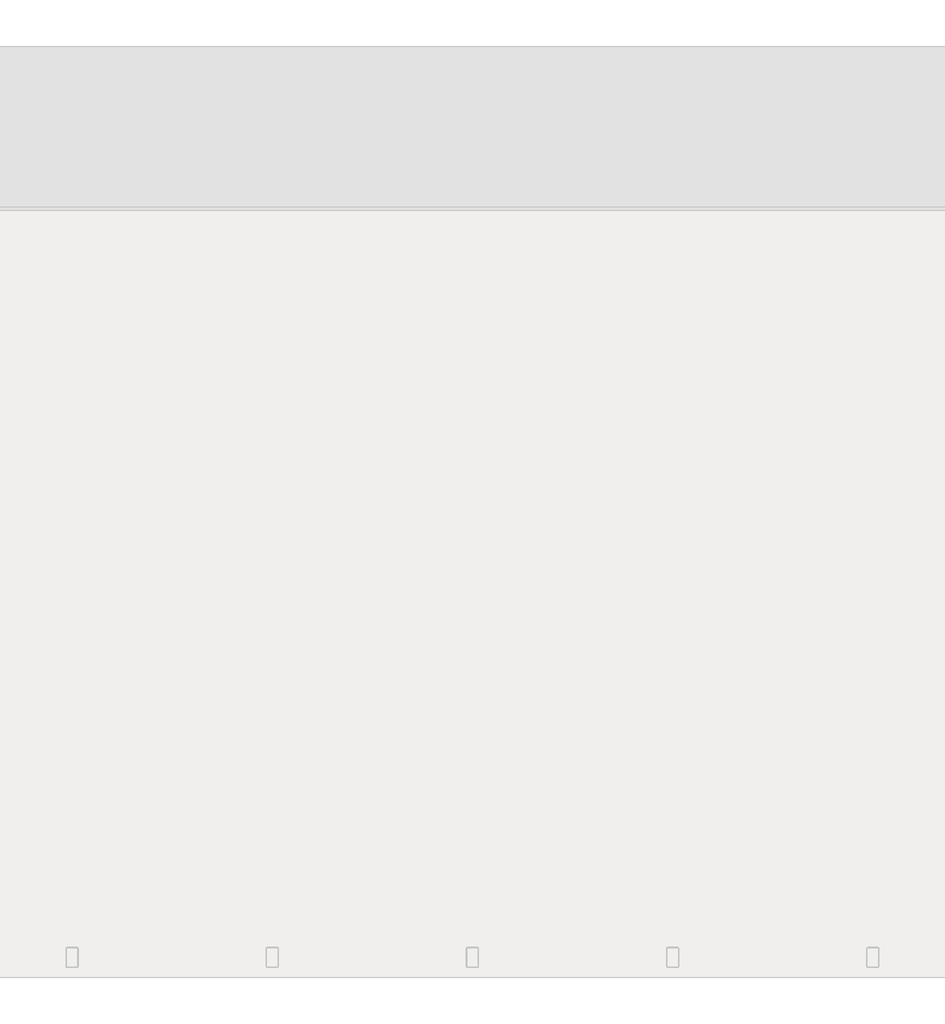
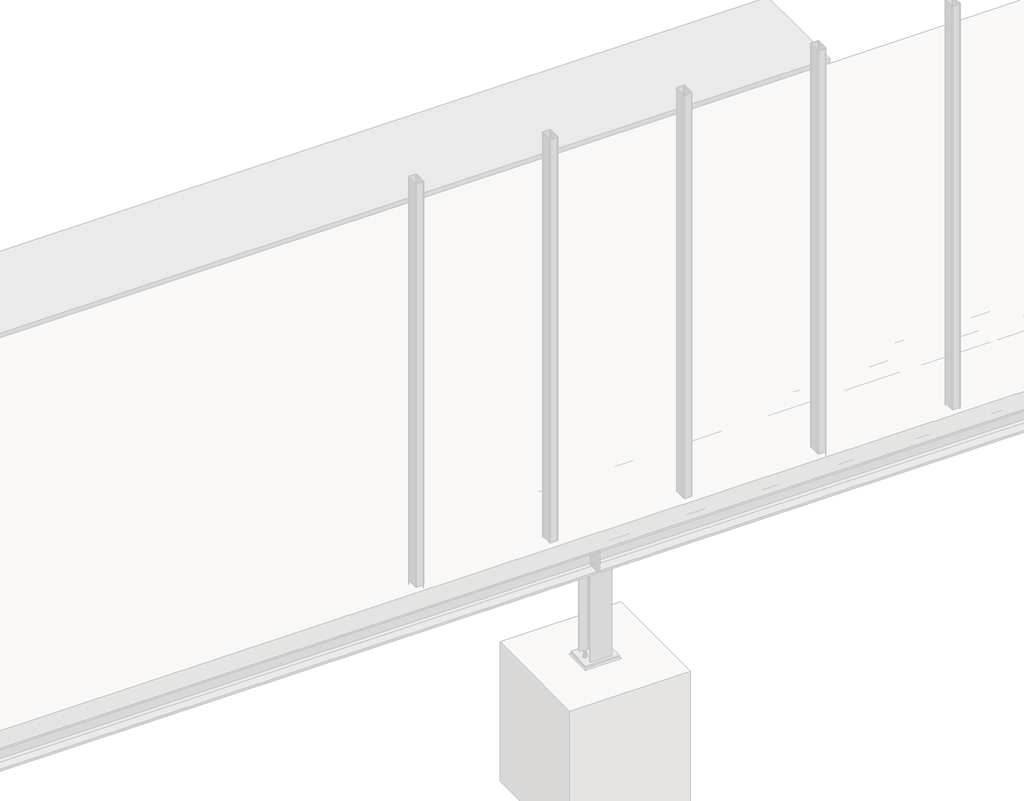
# One storey, part 28 of 36: 1 assembly.
"""IFC4 building model written with IfcOpenShell, lengths in millimetres."""

from ifc_helpers import new_model, si_unit, point, frame, frame_2d, origin, place, context, project, spatial, polyline, circle_curve, trimmed, segment, composite_curve, outline, extrude, element, save

model = new_model("IFC4")

# Units and contexts
model_context = context("Model", 3, world=origin())
ifc_project = project(units=[si_unit("LENGTHUNIT", "METRE", prefix="MILLI")], contexts=[model_context])

# Site, building, storey
site = spatial("IfcSite", under=ifc_project)
building = spatial("IfcBuilding", under=site)
storey = spatial("IfcBuildingStorey", under=building, Name="Základy", Elevation=-1200.0)

# Assembly
placement = place(None, origin())
element("IfcElementAssembly", 1, at=placement, inside=storey, context=model_context, shape_type="SweptSolid", body=[
    extrude(outline(composite_curve([segment(polyline([(-340.0, 9140.0), (-326.0, 9140.0), (-326.0, 9069.25)]), True, "CONTINUOUS"), segment(trimmed(circle_curve(frame_2d((-311.0, 9069.25)), 15.0), [point((-326.0, 9069.25))], [point((-311.0, 9054.25))], True, "CARTESIAN"), True, "CONTINUOUS"), segment(polyline([(-311.0, 9054.25), (-189.0, 9054.25)]), True, "CONTINUOUS"), segment(trimmed(circle_curve(frame_2d((-189.0, 9069.25)), 15.0), [point((-189.0, 9054.25))], [point((-174.0, 9069.25))], True, "CARTESIAN"), True, "CONTINUOUS"), segment(polyline([(-174.0, 9069.25), (-174.0, 9140.0), (-160.0, 9140.0), (-160.0, 8960.0), (-174.0, 8960.0), (-174.0, 9030.75)]), True, "CONTINUOUS"), segment(trimmed(circle_curve(frame_2d((-189.0, 9030.75)), 15.0), [point((-174.0, 9030.75))], [point((-189.0, 9045.75))], True, "CARTESIAN"), True, "CONTINUOUS"), segment(polyline([(-189.0, 9045.75), (-311.0, 9045.75)]), True, "CONTINUOUS"), segment(trimmed(circle_curve(frame_2d((-311.0, 9030.75)), 15.0), [point((-311.0, 9045.75))], [point((-326.0, 9030.75))], True, "CARTESIAN"), True, "CONTINUOUS"), segment(polyline([(-326.0, 9030.75), (-326.0, 8960.0), (-340.0, 8960.0), (-340.0, 9140.0)]), True, "CONTINUOUS")], self_intersect=False)), frame((0.0, 210.0, 0.0), z_axis=(0.0, 1.0, 0.0), x_axis=(0.0, 0.0, 1.0)), (0.0, 0.0, 1.0), 3557.0),
    extrude(outline(polyline([(8960.0, 3775.0), (9140.0, 3775.0), (9140.0, 3767.0), (8960.0, 3767.0), (8960.0, 3775.0)])), frame((0.0, 0.0, -316.0), z_axis=(0.0, 0.0, 1.0), x_axis=(1.0, 0.0, 0.0)), (0.0, 0.0, 1.0), 132.0),
    extrude(outline(polyline([(8950.0, 1200.0), (8950.0, 1320.0), (8960.0, 1320.0), (8960.0, 1200.0), (8950.0, 1200.0)])), frame((0.0, 0.0, -332.0), z_axis=(0.0, 0.0, 1.0), x_axis=(1.0, 0.0, 0.0)), (0.0, 0.0, 1.0), 164.0),
    extrude(outline(polyline([(9140.0, 1200.0), (9140.0, 1320.0), (9150.0, 1320.0), (9150.0, 1200.0), (9140.0, 1200.0)])), frame((0.0, 0.0, -332.0), z_axis=(0.0, 0.0, 1.0), x_axis=(1.0, 0.0, 0.0)), (0.0, 0.0, 1.0), 164.0),
    extrude(outline(composite_curve([segment(polyline([(-174.0, 9140.0), (-174.0, 9079.5)]), True, "CONTINUOUS"), segment(trimmed(circle_curve(frame_2d((-174.0, 9054.5)), 25.0), [point((-174.0, 9079.5))], [point((-199.0, 9054.5))], True, "CARTESIAN"), True, "CONTINUOUS"), segment(polyline([(-199.0, 9054.5), (-301.0, 9054.5)]), True, "CONTINUOUS"), segment(trimmed(circle_curve(frame_2d((-326.0, 9054.5)), 25.0), [point((-301.0, 9054.5))], [point((-326.0, 9079.5))], True, "CARTESIAN"), True, "CONTINUOUS"), segment(polyline([(-326.0, 9079.5), (-326.0, 9140.0), (-174.0, 9140.0)]), True, "CONTINUOUS")], self_intersect=False)), frame((0.0, 1256.0, 0.0), z_axis=(0.0, 1.0, 0.0), x_axis=(0.0, 0.0, 1.0)), (0.0, 0.0, 1.0), 8.0),
    extrude(outline(composite_curve([segment(polyline([(-174.0, 8960.0), (-326.0, 8960.0), (-326.0, 9020.5)]), True, "CONTINUOUS"), segment(trimmed(circle_curve(frame_2d((-326.0, 9045.5)), 25.0), [point((-326.0, 9020.5))], [point((-301.0, 9045.5))], True, "CARTESIAN"), True, "CONTINUOUS"), segment(polyline([(-301.0, 9045.5), (-199.0, 9045.5)]), True, "CONTINUOUS"), segment(trimmed(circle_curve(frame_2d((-174.0, 9045.5)), 25.0), [point((-199.0, 9045.5))], [point((-174.0, 9020.5))], True, "CARTESIAN"), True, "CONTINUOUS"), segment(polyline([(-174.0, 9020.5), (-174.0, 8960.0)]), True, "CONTINUOUS")], self_intersect=False)), frame((0.0, 1256.0, 0.0), z_axis=(0.0, 1.0, 0.0), x_axis=(0.0, 0.0, 1.0)), (0.0, 0.0, 1.0), 8.0),
    extrude(outline(polyline([(8960.0, 210.0), (9140.0, 210.0), (9140.0, 200.0), (8960.0, 200.0), (8960.0, 210.0)])), frame((0.0, 0.0, -332.0), z_axis=(0.0, 0.0, 1.0), x_axis=(1.0, 0.0, 0.0)), (0.0, 0.0, 1.0), 164.0),
    extrude(outline(composite_curve([segment(trimmed(circle_curve(frame_2d((1230.0, -225.0)), 6.5), [point((1230.0, -231.5))], [point((1230.0, -218.5))], False, "CARTESIAN"), True, "CONTINUOUS"), segment(trimmed(circle_curve(frame_2d((1230.0, -225.0)), 6.5), [point((1230.0, -218.5))], [point((1230.0, -231.5))], False, "CARTESIAN"), True, "CONTINUOUS")], self_intersect=False)), frame((8949.9, 0.0, 0.0), z_axis=(1.0, 0.0, 0.0), x_axis=(0.0, 1.0, 0.0)), (0.0, 0.0, 1.0), 10.0),
    extrude(outline(polyline([(1230.0, -235.3923048), (1221.0, -230.1961524), (1221.0, -219.8038476), (1230.0, -214.6076952), (1239.0, -219.8038476), (1239.0, -230.1961524), (1230.0, -235.3923048)])), frame((8962.5, 0.0, 0.0), z_axis=(1.0, 0.0, 0.0), x_axis=(0.0, 1.0, 0.0)), (0.0, 0.0, 1.0), 7.5),
    extrude(outline(composite_curve([segment(trimmed(circle_curve(frame_2d((1230.0, -225.0)), 6.0), [point((1230.0, -231.0))], [point((1230.0, -219.0))], False, "CARTESIAN"), True, "CONTINUOUS"), segment(trimmed(circle_curve(frame_2d((1230.0, -225.0)), 6.0), [point((1230.0, -219.0))], [point((1230.0, -231.0))], False, "CARTESIAN"), True, "CONTINUOUS")], self_intersect=False)), frame((8922.5, 0.0, 0.0), z_axis=(1.0, 0.0, 0.0), x_axis=(0.0, 1.0, 0.0)), (0.0, 0.0, 1.0), 40.0),
    extrude(outline(composite_curve([segment(trimmed(circle_curve(frame_2d((1230.0, -225.0)), 12.0), [point((1230.0, -237.0))], [point((1230.0, -213.0))], False, "CARTESIAN"), True, "CONTINUOUS"), segment(trimmed(circle_curve(frame_2d((1230.0, -225.0)), 12.0), [point((1230.0, -213.0))], [point((1230.0, -237.0))], False, "CARTESIAN"), True, "CONTINUOUS")], self_intersect=False)), frame((8960.0, 0.0, 0.0), z_axis=(1.0, 0.0, 0.0), x_axis=(0.0, 1.0, 0.0)), (0.0, 0.0, 1.0), 2.5),
    extrude(outline(composite_curve([segment(trimmed(circle_curve(frame_2d((1230.0, -225.0)), 12.0), [point((1230.0, -237.0))], [point((1230.0, -213.0))], False, "CARTESIAN"), True, "CONTINUOUS"), segment(trimmed(circle_curve(frame_2d((1230.0, -225.0)), 12.0), [point((1230.0, -213.0))], [point((1230.0, -237.0))], False, "CARTESIAN"), True, "CONTINUOUS")], self_intersect=False)), frame((8937.5, 0.0, 0.0), z_axis=(1.0, 0.0, 0.0), x_axis=(0.0, 1.0, 0.0)), (0.0, 0.0, 1.0), 2.5),
    extrude(outline(polyline([(1230.0, -235.9696551), (1220.5, -230.4848276), (1220.5, -219.5151724), (1230.0, -214.0303449), (1239.5, -219.5151724), (1239.5, -230.4848276), (1230.0, -235.9696551)])), frame((8927.5, 0.0, 0.0), z_axis=(1.0, 0.0, 0.0), x_axis=(0.0, 1.0, 0.0)), (0.0, 0.0, 1.0), 10.0),
    extrude(outline(composite_curve([segment(trimmed(circle_curve(frame_2d((1230.0, -225.0)), 6.5), [point((1230.0, -231.5))], [point((1230.0, -218.5))], False, "CARTESIAN"), True, "CONTINUOUS"), segment(trimmed(circle_curve(frame_2d((1230.0, -225.0)), 6.5), [point((1230.0, -218.5))], [point((1230.0, -231.5))], False, "CARTESIAN"), True, "CONTINUOUS")], self_intersect=False)), frame((8940.0, 0.0, 0.0), z_axis=(1.0, 0.0, 0.0), x_axis=(0.0, 1.0, 0.0)), (0.0, 0.0, 1.0), 10.1),
    extrude(outline(composite_curve([segment(trimmed(circle_curve(frame_2d((1230.0, -275.0)), 6.5), [point((1230.0, -281.5))], [point((1230.0, -268.5))], False, "CARTESIAN"), True, "CONTINUOUS"), segment(trimmed(circle_curve(frame_2d((1230.0, -275.0)), 6.5), [point((1230.0, -268.5))], [point((1230.0, -281.5))], False, "CARTESIAN"), True, "CONTINUOUS")], self_intersect=False)), frame((8949.9, 0.0, 0.0), z_axis=(1.0, 0.0, 0.0), x_axis=(0.0, 1.0, 0.0)), (0.0, 0.0, 1.0), 10.0),
    extrude(outline(polyline([(1230.0, -285.3923048), (1221.0, -280.1961524), (1221.0, -269.8038476), (1230.0, -264.6076952), (1239.0, -269.8038476), (1239.0, -280.1961524), (1230.0, -285.3923048)])), frame((8962.5, 0.0, 0.0), z_axis=(1.0, 0.0, 0.0), x_axis=(0.0, 1.0, 0.0)), (0.0, 0.0, 1.0), 7.5),
    extrude(outline(composite_curve([segment(trimmed(circle_curve(frame_2d((1230.0, -275.0)), 6.0), [point((1230.0, -281.0))], [point((1230.0, -269.0))], False, "CARTESIAN"), True, "CONTINUOUS"), segment(trimmed(circle_curve(frame_2d((1230.0, -275.0)), 6.0), [point((1230.0, -269.0))], [point((1230.0, -281.0))], False, "CARTESIAN"), True, "CONTINUOUS")], self_intersect=False)), frame((8922.5, 0.0, 0.0), z_axis=(1.0, 0.0, 0.0), x_axis=(0.0, 1.0, 0.0)), (0.0, 0.0, 1.0), 40.0),
    extrude(outline(composite_curve([segment(trimmed(circle_curve(frame_2d((1230.0, -275.0)), 12.0), [point((1230.0, -287.0))], [point((1230.0, -263.0))], False, "CARTESIAN"), True, "CONTINUOUS"), segment(trimmed(circle_curve(frame_2d((1230.0, -275.0)), 12.0), [point((1230.0, -263.0))], [point((1230.0, -287.0))], False, "CARTESIAN"), True, "CONTINUOUS")], self_intersect=False)), frame((8960.0, 0.0, 0.0), z_axis=(1.0, 0.0, 0.0), x_axis=(0.0, 1.0, 0.0)), (0.0, 0.0, 1.0), 2.5),
    extrude(outline(composite_curve([segment(trimmed(circle_curve(frame_2d((1230.0, -275.0)), 12.0), [point((1230.0, -287.0))], [point((1230.0, -263.0))], False, "CARTESIAN"), True, "CONTINUOUS"), segment(trimmed(circle_curve(frame_2d((1230.0, -275.0)), 12.0), [point((1230.0, -263.0))], [point((1230.0, -287.0))], False, "CARTESIAN"), True, "CONTINUOUS")], self_intersect=False)), frame((8937.5, 0.0, 0.0), z_axis=(1.0, 0.0, 0.0), x_axis=(0.0, 1.0, 0.0)), (0.0, 0.0, 1.0), 2.5),
    extrude(outline(polyline([(1230.0, -285.9696551), (1220.5, -280.4848276), (1220.5, -269.5151724), (1230.0, -264.0303449), (1239.5, -269.5151724), (1239.5, -280.4848276), (1230.0, -285.9696551)])), frame((8927.5, 0.0, 0.0), z_axis=(1.0, 0.0, 0.0), x_axis=(0.0, 1.0, 0.0)), (0.0, 0.0, 1.0), 10.0),
    extrude(outline(composite_curve([segment(trimmed(circle_curve(frame_2d((1230.0, -275.0)), 6.5), [point((1230.0, -281.5))], [point((1230.0, -268.5))], False, "CARTESIAN"), True, "CONTINUOUS"), segment(trimmed(circle_curve(frame_2d((1230.0, -275.0)), 6.5), [point((1230.0, -268.5))], [point((1230.0, -281.5))], False, "CARTESIAN"), True, "CONTINUOUS")], self_intersect=False)), frame((8940.0, 0.0, 0.0), z_axis=(1.0, 0.0, 0.0), x_axis=(0.0, 1.0, 0.0)), (0.0, 0.0, 1.0), 10.1),
    extrude(outline(composite_curve([segment(trimmed(circle_curve(frame_2d((1290.0, -225.0)), 6.5), [point((1290.0, -231.5))], [point((1290.0, -218.5))], False, "CARTESIAN"), True, "CONTINUOUS"), segment(trimmed(circle_curve(frame_2d((1290.0, -225.0)), 6.5), [point((1290.0, -218.5))], [point((1290.0, -231.5))], False, "CARTESIAN"), True, "CONTINUOUS")], self_intersect=False)), frame((8949.9, 0.0, 0.0), z_axis=(1.0, 0.0, 0.0), x_axis=(0.0, 1.0, 0.0)), (0.0, 0.0, 1.0), 10.0),
    extrude(outline(polyline([(1290.0, -235.3923048), (1281.0, -230.1961524), (1281.0, -219.8038476), (1290.0, -214.6076952), (1299.0, -219.8038476), (1299.0, -230.1961524), (1290.0, -235.3923048)])), frame((8962.5, 0.0, 0.0), z_axis=(1.0, 0.0, 0.0), x_axis=(0.0, 1.0, 0.0)), (0.0, 0.0, 1.0), 7.5),
    extrude(outline(composite_curve([segment(trimmed(circle_curve(frame_2d((1290.0, -225.0)), 6.0), [point((1290.0, -231.0))], [point((1290.0, -219.0))], False, "CARTESIAN"), True, "CONTINUOUS"), segment(trimmed(circle_curve(frame_2d((1290.0, -225.0)), 6.0), [point((1290.0, -219.0))], [point((1290.0, -231.0))], False, "CARTESIAN"), True, "CONTINUOUS")], self_intersect=False)), frame((8922.5, 0.0, 0.0), z_axis=(1.0, 0.0, 0.0), x_axis=(0.0, 1.0, 0.0)), (0.0, 0.0, 1.0), 40.0),
    extrude(outline(composite_curve([segment(trimmed(circle_curve(frame_2d((1290.0, -225.0)), 12.0), [point((1290.0, -237.0))], [point((1290.0, -213.0))], False, "CARTESIAN"), True, "CONTINUOUS"), segment(trimmed(circle_curve(frame_2d((1290.0, -225.0)), 12.0), [point((1290.0, -213.0))], [point((1290.0, -237.0))], False, "CARTESIAN"), True, "CONTINUOUS")], self_intersect=False)), frame((8960.0, 0.0, 0.0), z_axis=(1.0, 0.0, 0.0), x_axis=(0.0, 1.0, 0.0)), (0.0, 0.0, 1.0), 2.5),
    extrude(outline(composite_curve([segment(trimmed(circle_curve(frame_2d((1290.0, -225.0)), 12.0), [point((1290.0, -237.0))], [point((1290.0, -213.0))], False, "CARTESIAN"), True, "CONTINUOUS"), segment(trimmed(circle_curve(frame_2d((1290.0, -225.0)), 12.0), [point((1290.0, -213.0))], [point((1290.0, -237.0))], False, "CARTESIAN"), True, "CONTINUOUS")], self_intersect=False)), frame((8937.5, 0.0, 0.0), z_axis=(1.0, 0.0, 0.0), x_axis=(0.0, 1.0, 0.0)), (0.0, 0.0, 1.0), 2.5),
    extrude(outline(polyline([(1290.0, -235.9696551), (1280.5, -230.4848276), (1280.5, -219.5151724), (1290.0, -214.0303449), (1299.5, -219.5151724), (1299.5, -230.4848276), (1290.0, -235.9696551)])), frame((8927.5, 0.0, 0.0), z_axis=(1.0, 0.0, 0.0), x_axis=(0.0, 1.0, 0.0)), (0.0, 0.0, 1.0), 10.0),
    extrude(outline(composite_curve([segment(trimmed(circle_curve(frame_2d((1290.0, -225.0)), 6.5), [point((1290.0, -231.5))], [point((1290.0, -218.5))], False, "CARTESIAN"), True, "CONTINUOUS"), segment(trimmed(circle_curve(frame_2d((1290.0, -225.0)), 6.5), [point((1290.0, -218.5))], [point((1290.0, -231.5))], False, "CARTESIAN"), True, "CONTINUOUS")], self_intersect=False)), frame((8940.0, 0.0, 0.0), z_axis=(1.0, 0.0, 0.0), x_axis=(0.0, 1.0, 0.0)), (0.0, 0.0, 1.0), 10.1),
    extrude(outline(composite_curve([segment(trimmed(circle_curve(frame_2d((1290.0, -275.0)), 6.5), [point((1290.0, -281.5))], [point((1290.0, -268.5))], False, "CARTESIAN"), True, "CONTINUOUS"), segment(trimmed(circle_curve(frame_2d((1290.0, -275.0)), 6.5), [point((1290.0, -268.5))], [point((1290.0, -281.5))], False, "CARTESIAN"), True, "CONTINUOUS")], self_intersect=False)), frame((8949.9, 0.0, 0.0), z_axis=(1.0, 0.0, 0.0), x_axis=(0.0, 1.0, 0.0)), (0.0, 0.0, 1.0), 10.0),
    extrude(outline(polyline([(1290.0, -285.3923048), (1281.0, -280.1961524), (1281.0, -269.8038476), (1290.0, -264.6076952), (1299.0, -269.8038476), (1299.0, -280.1961524), (1290.0, -285.3923048)])), frame((8962.5, 0.0, 0.0), z_axis=(1.0, 0.0, 0.0), x_axis=(0.0, 1.0, 0.0)), (0.0, 0.0, 1.0), 7.5),
    extrude(outline(composite_curve([segment(trimmed(circle_curve(frame_2d((1290.0, -275.0)), 6.0), [point((1290.0, -281.0))], [point((1290.0, -269.0))], False, "CARTESIAN"), True, "CONTINUOUS"), segment(trimmed(circle_curve(frame_2d((1290.0, -275.0)), 6.0), [point((1290.0, -269.0))], [point((1290.0, -281.0))], False, "CARTESIAN"), True, "CONTINUOUS")], self_intersect=False)), frame((8922.5, 0.0, 0.0), z_axis=(1.0, 0.0, 0.0), x_axis=(0.0, 1.0, 0.0)), (0.0, 0.0, 1.0), 40.0),
    extrude(outline(composite_curve([segment(trimmed(circle_curve(frame_2d((1290.0, -275.0)), 12.0), [point((1290.0, -287.0))], [point((1290.0, -263.0))], False, "CARTESIAN"), True, "CONTINUOUS"), segment(trimmed(circle_curve(frame_2d((1290.0, -275.0)), 12.0), [point((1290.0, -263.0))], [point((1290.0, -287.0))], False, "CARTESIAN"), True, "CONTINUOUS")], self_intersect=False)), frame((8960.0, 0.0, 0.0), z_axis=(1.0, 0.0, 0.0), x_axis=(0.0, 1.0, 0.0)), (0.0, 0.0, 1.0), 2.5),
    extrude(outline(composite_curve([segment(trimmed(circle_curve(frame_2d((1290.0, -275.0)), 12.0), [point((1290.0, -287.0))], [point((1290.0, -263.0))], False, "CARTESIAN"), True, "CONTINUOUS"), segment(trimmed(circle_curve(frame_2d((1290.0, -275.0)), 12.0), [point((1290.0, -263.0))], [point((1290.0, -287.0))], False, "CARTESIAN"), True, "CONTINUOUS")], self_intersect=False)), frame((8937.5, 0.0, 0.0), z_axis=(1.0, 0.0, 0.0), x_axis=(0.0, 1.0, 0.0)), (0.0, 0.0, 1.0), 2.5),
    extrude(outline(polyline([(1290.0, -285.9696551), (1280.5, -280.4848276), (1280.5, -269.5151724), (1290.0, -264.0303449), (1299.5, -269.5151724), (1299.5, -280.4848276), (1290.0, -285.9696551)])), frame((8927.5, 0.0, 0.0), z_axis=(1.0, 0.0, 0.0), x_axis=(0.0, 1.0, 0.0)), (0.0, 0.0, 1.0), 10.0),
    extrude(outline(composite_curve([segment(trimmed(circle_curve(frame_2d((1290.0, -275.0)), 6.5), [point((1290.0, -281.5))], [point((1290.0, -268.5))], False, "CARTESIAN"), True, "CONTINUOUS"), segment(trimmed(circle_curve(frame_2d((1290.0, -275.0)), 6.5), [point((1290.0, -268.5))], [point((1290.0, -281.5))], False, "CARTESIAN"), True, "CONTINUOUS")], self_intersect=False)), frame((8940.0, 0.0, 0.0), z_axis=(1.0, 0.0, 0.0), x_axis=(0.0, 1.0, 0.0)), (0.0, 0.0, 1.0), 10.1),
    extrude(outline(composite_curve([segment(trimmed(circle_curve(frame_2d((1230.0, -225.0)), 6.5), [point((1230.0, -231.5))], [point((1230.0, -218.5))], False, "CARTESIAN"), True, "CONTINUOUS"), segment(trimmed(circle_curve(frame_2d((1230.0, -225.0)), 6.5), [point((1230.0, -218.5))], [point((1230.0, -231.5))], False, "CARTESIAN"), True, "CONTINUOUS")], self_intersect=False)), frame((9140.1, 0.0, 0.0), z_axis=(1.0, 0.0, 0.0), x_axis=(0.0, 1.0, 0.0)), (0.0, 0.0, 1.0), 10.0),
    extrude(outline(polyline([(1230.0, -235.3923048), (1221.0, -230.1961524), (1221.0, -219.8038476), (1230.0, -214.6076952), (1239.0, -219.8038476), (1239.0, -230.1961524), (1230.0, -235.3923048)])), frame((9130.0, 0.0, 0.0), z_axis=(1.0, 0.0, 0.0), x_axis=(0.0, 1.0, 0.0)), (0.0, 0.0, 1.0), 7.5),
    extrude(outline(composite_curve([segment(trimmed(circle_curve(frame_2d((1230.0, -225.0)), 6.0), [point((1230.0, -231.0))], [point((1230.0, -219.0))], False, "CARTESIAN"), True, "CONTINUOUS"), segment(trimmed(circle_curve(frame_2d((1230.0, -225.0)), 6.0), [point((1230.0, -219.0))], [point((1230.0, -231.0))], False, "CARTESIAN"), True, "CONTINUOUS")], self_intersect=False)), frame((9137.5, 0.0, 0.0), z_axis=(1.0, 0.0, 0.0), x_axis=(0.0, 1.0, 0.0)), (0.0, 0.0, 1.0), 40.0),
    extrude(outline(composite_curve([segment(trimmed(circle_curve(frame_2d((1230.0, -225.0)), 12.0), [point((1230.0, -237.0))], [point((1230.0, -213.0))], False, "CARTESIAN"), True, "CONTINUOUS"), segment(trimmed(circle_curve(frame_2d((1230.0, -225.0)), 12.0), [point((1230.0, -213.0))], [point((1230.0, -237.0))], False, "CARTESIAN"), True, "CONTINUOUS")], self_intersect=False)), frame((9137.5, 0.0, 0.0), z_axis=(1.0, 0.0, 0.0), x_axis=(0.0, 1.0, 0.0)), (0.0, 0.0, 1.0), 2.5),
    extrude(outline(composite_curve([segment(trimmed(circle_curve(frame_2d((1230.0, -225.0)), 12.0), [point((1230.0, -237.0))], [point((1230.0, -213.0))], False, "CARTESIAN"), True, "CONTINUOUS"), segment(trimmed(circle_curve(frame_2d((1230.0, -225.0)), 12.0), [point((1230.0, -213.0))], [point((1230.0, -237.0))], False, "CARTESIAN"), True, "CONTINUOUS")], self_intersect=False)), frame((9160.0, 0.0, 0.0), z_axis=(1.0, 0.0, 0.0), x_axis=(0.0, 1.0, 0.0)), (0.0, 0.0, 1.0), 2.5),
    extrude(outline(polyline([(1230.0, -235.9696551), (1220.5, -230.4848276), (1220.5, -219.5151724), (1230.0, -214.0303449), (1239.5, -219.5151724), (1239.5, -230.4848276), (1230.0, -235.9696551)])), frame((9162.5, 0.0, 0.0), z_axis=(1.0, 0.0, 0.0), x_axis=(0.0, 1.0, 0.0)), (0.0, 0.0, 1.0), 10.0),
    extrude(outline(composite_curve([segment(trimmed(circle_curve(frame_2d((1230.0, -225.0)), 6.5), [point((1230.0, -231.5))], [point((1230.0, -218.5))], False, "CARTESIAN"), True, "CONTINUOUS"), segment(trimmed(circle_curve(frame_2d((1230.0, -225.0)), 6.5), [point((1230.0, -218.5))], [point((1230.0, -231.5))], False, "CARTESIAN"), True, "CONTINUOUS")], self_intersect=False)), frame((9149.9, 0.0, 0.0), z_axis=(1.0, 0.0, 0.0), x_axis=(0.0, 1.0, 0.0)), (0.0, 0.0, 1.0), 10.1),
    extrude(outline(composite_curve([segment(trimmed(circle_curve(frame_2d((1230.0, -275.0)), 6.5), [point((1230.0, -281.5))], [point((1230.0, -268.5))], False, "CARTESIAN"), True, "CONTINUOUS"), segment(trimmed(circle_curve(frame_2d((1230.0, -275.0)), 6.5), [point((1230.0, -268.5))], [point((1230.0, -281.5))], False, "CARTESIAN"), True, "CONTINUOUS")], self_intersect=False)), frame((9140.1, 0.0, 0.0), z_axis=(1.0, 0.0, 0.0), x_axis=(0.0, 1.0, 0.0)), (0.0, 0.0, 1.0), 10.0),
    extrude(outline(polyline([(1230.0, -285.3923048), (1221.0, -280.1961524), (1221.0, -269.8038476), (1230.0, -264.6076952), (1239.0, -269.8038476), (1239.0, -280.1961524), (1230.0, -285.3923048)])), frame((9130.0, 0.0, 0.0), z_axis=(1.0, 0.0, 0.0), x_axis=(0.0, 1.0, 0.0)), (0.0, 0.0, 1.0), 7.5),
    extrude(outline(composite_curve([segment(trimmed(circle_curve(frame_2d((1230.0, -275.0)), 6.0), [point((1230.0, -281.0))], [point((1230.0, -269.0))], False, "CARTESIAN"), True, "CONTINUOUS"), segment(trimmed(circle_curve(frame_2d((1230.0, -275.0)), 6.0), [point((1230.0, -269.0))], [point((1230.0, -281.0))], False, "CARTESIAN"), True, "CONTINUOUS")], self_intersect=False)), frame((9137.5, 0.0, 0.0), z_axis=(1.0, 0.0, 0.0), x_axis=(0.0, 1.0, 0.0)), (0.0, 0.0, 1.0), 40.0),
    extrude(outline(composite_curve([segment(trimmed(circle_curve(frame_2d((1230.0, -275.0)), 12.0), [point((1230.0, -287.0))], [point((1230.0, -263.0))], False, "CARTESIAN"), True, "CONTINUOUS"), segment(trimmed(circle_curve(frame_2d((1230.0, -275.0)), 12.0), [point((1230.0, -263.0))], [point((1230.0, -287.0))], False, "CARTESIAN"), True, "CONTINUOUS")], self_intersect=False)), frame((9137.5, 0.0, 0.0), z_axis=(1.0, 0.0, 0.0), x_axis=(0.0, 1.0, 0.0)), (0.0, 0.0, 1.0), 2.5),
    extrude(outline(composite_curve([segment(trimmed(circle_curve(frame_2d((1230.0, -275.0)), 12.0), [point((1230.0, -287.0))], [point((1230.0, -263.0))], False, "CARTESIAN"), True, "CONTINUOUS"), segment(trimmed(circle_curve(frame_2d((1230.0, -275.0)), 12.0), [point((1230.0, -263.0))], [point((1230.0, -287.0))], False, "CARTESIAN"), True, "CONTINUOUS")], self_intersect=False)), frame((9160.0, 0.0, 0.0), z_axis=(1.0, 0.0, 0.0), x_axis=(0.0, 1.0, 0.0)), (0.0, 0.0, 1.0), 2.5),
    extrude(outline(polyline([(1230.0, -285.9696551), (1220.5, -280.4848276), (1220.5, -269.5151724), (1230.0, -264.0303449), (1239.5, -269.5151724), (1239.5, -280.4848276), (1230.0, -285.9696551)])), frame((9162.5, 0.0, 0.0), z_axis=(1.0, 0.0, 0.0), x_axis=(0.0, 1.0, 0.0)), (0.0, 0.0, 1.0), 10.0),
    extrude(outline(composite_curve([segment(trimmed(circle_curve(frame_2d((1230.0, -275.0)), 6.5), [point((1230.0, -281.5))], [point((1230.0, -268.5))], False, "CARTESIAN"), True, "CONTINUOUS"), segment(trimmed(circle_curve(frame_2d((1230.0, -275.0)), 6.5), [point((1230.0, -268.5))], [point((1230.0, -281.5))], False, "CARTESIAN"), True, "CONTINUOUS")], self_intersect=False)), frame((9149.9, 0.0, 0.0), z_axis=(1.0, 0.0, 0.0), x_axis=(0.0, 1.0, 0.0)), (0.0, 0.0, 1.0), 10.1),
    extrude(outline(composite_curve([segment(trimmed(circle_curve(frame_2d((1290.0, -225.0)), 6.5), [point((1290.0, -231.5))], [point((1290.0, -218.5))], False, "CARTESIAN"), True, "CONTINUOUS"), segment(trimmed(circle_curve(frame_2d((1290.0, -225.0)), 6.5), [point((1290.0, -218.5))], [point((1290.0, -231.5))], False, "CARTESIAN"), True, "CONTINUOUS")], self_intersect=False)), frame((9140.1, 0.0, 0.0), z_axis=(1.0, 0.0, 0.0), x_axis=(0.0, 1.0, 0.0)), (0.0, 0.0, 1.0), 10.0),
    extrude(outline(polyline([(1290.0, -235.3923048), (1281.0, -230.1961524), (1281.0, -219.8038476), (1290.0, -214.6076952), (1299.0, -219.8038476), (1299.0, -230.1961524), (1290.0, -235.3923048)])), frame((9130.0, 0.0, 0.0), z_axis=(1.0, 0.0, 0.0), x_axis=(0.0, 1.0, 0.0)), (0.0, 0.0, 1.0), 7.5),
    extrude(outline(composite_curve([segment(trimmed(circle_curve(frame_2d((1290.0, -225.0)), 6.0), [point((1290.0, -231.0))], [point((1290.0, -219.0))], False, "CARTESIAN"), True, "CONTINUOUS"), segment(trimmed(circle_curve(frame_2d((1290.0, -225.0)), 6.0), [point((1290.0, -219.0))], [point((1290.0, -231.0))], False, "CARTESIAN"), True, "CONTINUOUS")], self_intersect=False)), frame((9137.5, 0.0, 0.0), z_axis=(1.0, 0.0, 0.0), x_axis=(0.0, 1.0, 0.0)), (0.0, 0.0, 1.0), 40.0),
    extrude(outline(composite_curve([segment(trimmed(circle_curve(frame_2d((1290.0, -225.0)), 12.0), [point((1290.0, -237.0))], [point((1290.0, -213.0))], False, "CARTESIAN"), True, "CONTINUOUS"), segment(trimmed(circle_curve(frame_2d((1290.0, -225.0)), 12.0), [point((1290.0, -213.0))], [point((1290.0, -237.0))], False, "CARTESIAN"), True, "CONTINUOUS")], self_intersect=False)), frame((9137.5, 0.0, 0.0), z_axis=(1.0, 0.0, 0.0), x_axis=(0.0, 1.0, 0.0)), (0.0, 0.0, 1.0), 2.5),
    extrude(outline(composite_curve([segment(trimmed(circle_curve(frame_2d((1290.0, -225.0)), 12.0), [point((1290.0, -237.0))], [point((1290.0, -213.0))], False, "CARTESIAN"), True, "CONTINUOUS"), segment(trimmed(circle_curve(frame_2d((1290.0, -225.0)), 12.0), [point((1290.0, -213.0))], [point((1290.0, -237.0))], False, "CARTESIAN"), True, "CONTINUOUS")], self_intersect=False)), frame((9160.0, 0.0, 0.0), z_axis=(1.0, 0.0, 0.0), x_axis=(0.0, 1.0, 0.0)), (0.0, 0.0, 1.0), 2.5),
    extrude(outline(polyline([(1290.0, -235.9696551), (1280.5, -230.4848276), (1280.5, -219.5151724), (1290.0, -214.0303449), (1299.5, -219.5151724), (1299.5, -230.4848276), (1290.0, -235.9696551)])), frame((9162.5, 0.0, 0.0), z_axis=(1.0, 0.0, 0.0), x_axis=(0.0, 1.0, 0.0)), (0.0, 0.0, 1.0), 10.0),
    extrude(outline(composite_curve([segment(trimmed(circle_curve(frame_2d((1290.0, -225.0)), 6.5), [point((1290.0, -231.5))], [point((1290.0, -218.5))], False, "CARTESIAN"), True, "CONTINUOUS"), segment(trimmed(circle_curve(frame_2d((1290.0, -225.0)), 6.5), [point((1290.0, -218.5))], [point((1290.0, -231.5))], False, "CARTESIAN"), True, "CONTINUOUS")], self_intersect=False)), frame((9149.9, 0.0, 0.0), z_axis=(1.0, 0.0, 0.0), x_axis=(0.0, 1.0, 0.0)), (0.0, 0.0, 1.0), 10.1),
    extrude(outline(composite_curve([segment(trimmed(circle_curve(frame_2d((1290.0, -275.0)), 6.5), [point((1290.0, -281.5))], [point((1290.0, -268.5))], False, "CARTESIAN"), True, "CONTINUOUS"), segment(trimmed(circle_curve(frame_2d((1290.0, -275.0)), 6.5), [point((1290.0, -268.5))], [point((1290.0, -281.5))], False, "CARTESIAN"), True, "CONTINUOUS")], self_intersect=False)), frame((9140.1, 0.0, 0.0), z_axis=(1.0, 0.0, 0.0), x_axis=(0.0, 1.0, 0.0)), (0.0, 0.0, 1.0), 10.0),
    extrude(outline(polyline([(1290.0, -285.3923048), (1281.0, -280.1961524), (1281.0, -269.8038476), (1290.0, -264.6076952), (1299.0, -269.8038476), (1299.0, -280.1961524), (1290.0, -285.3923048)])), frame((9130.0, 0.0, 0.0), z_axis=(1.0, 0.0, 0.0), x_axis=(0.0, 1.0, 0.0)), (0.0, 0.0, 1.0), 7.5),
    extrude(outline(composite_curve([segment(trimmed(circle_curve(frame_2d((1290.0, -275.0)), 6.0), [point((1290.0, -281.0))], [point((1290.0, -269.0))], False, "CARTESIAN"), True, "CONTINUOUS"), segment(trimmed(circle_curve(frame_2d((1290.0, -275.0)), 6.0), [point((1290.0, -269.0))], [point((1290.0, -281.0))], False, "CARTESIAN"), True, "CONTINUOUS")], self_intersect=False)), frame((9137.5, 0.0, 0.0), z_axis=(1.0, 0.0, 0.0), x_axis=(0.0, 1.0, 0.0)), (0.0, 0.0, 1.0), 40.0),
    extrude(outline(composite_curve([segment(trimmed(circle_curve(frame_2d((1290.0, -275.0)), 12.0), [point((1290.0, -287.0))], [point((1290.0, -263.0))], False, "CARTESIAN"), True, "CONTINUOUS"), segment(trimmed(circle_curve(frame_2d((1290.0, -275.0)), 12.0), [point((1290.0, -263.0))], [point((1290.0, -287.0))], False, "CARTESIAN"), True, "CONTINUOUS")], self_intersect=False)), frame((9137.5, 0.0, 0.0), z_axis=(1.0, 0.0, 0.0), x_axis=(0.0, 1.0, 0.0)), (0.0, 0.0, 1.0), 2.5),
    extrude(outline(composite_curve([segment(trimmed(circle_curve(frame_2d((1290.0, -275.0)), 12.0), [point((1290.0, -287.0))], [point((1290.0, -263.0))], False, "CARTESIAN"), True, "CONTINUOUS"), segment(trimmed(circle_curve(frame_2d((1290.0, -275.0)), 12.0), [point((1290.0, -263.0))], [point((1290.0, -287.0))], False, "CARTESIAN"), True, "CONTINUOUS")], self_intersect=False)), frame((9160.0, 0.0, 0.0), z_axis=(1.0, 0.0, 0.0), x_axis=(0.0, 1.0, 0.0)), (0.0, 0.0, 1.0), 2.5),
    extrude(outline(polyline([(1290.0, -285.9696551), (1280.5, -280.4848276), (1280.5, -269.5151724), (1290.0, -264.0303449), (1299.5, -269.5151724), (1299.5, -280.4848276), (1290.0, -285.9696551)])), frame((9162.5, 0.0, 0.0), z_axis=(1.0, 0.0, 0.0), x_axis=(0.0, 1.0, 0.0)), (0.0, 0.0, 1.0), 10.0),
    extrude(outline(composite_curve([segment(trimmed(circle_curve(frame_2d((1290.0, -275.0)), 6.5), [point((1290.0, -281.5))], [point((1290.0, -268.5))], False, "CARTESIAN"), True, "CONTINUOUS"), segment(trimmed(circle_curve(frame_2d((1290.0, -275.0)), 6.5), [point((1290.0, -268.5))], [point((1290.0, -281.5))], False, "CARTESIAN"), True, "CONTINUOUS")], self_intersect=False)), frame((9149.9, 0.0, 0.0), z_axis=(1.0, 0.0, 0.0), x_axis=(0.0, 1.0, 0.0)), (0.0, 0.0, 1.0), 10.1),
])

save(model, "model.ifc")
